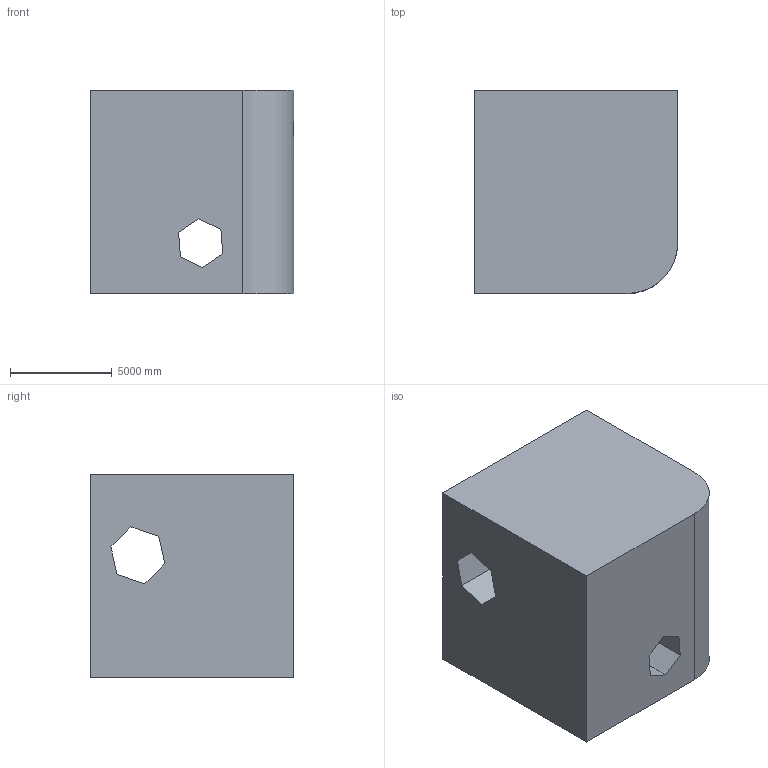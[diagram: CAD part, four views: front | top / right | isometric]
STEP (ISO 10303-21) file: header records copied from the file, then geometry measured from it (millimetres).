
FILE_DESCRIPTION (( 'STEP AP203' ), '1' );
FILE_NAME ('415.STEP', '2022-07-29T11:11:23', ( 'user' ), ( '' ), 'SwSTEP 2.0', 'SolidWorks 2021', '' );
FILE_SCHEMA (( 'CONFIG_CONTROL_DESIGN' ));
Length unit declared in the file: centimetre
Products named in the file (1): 415
Bounding box: 10000 x 10000 x 10000 mm (x, y, z)
Volume: 843441707352.4 mm3; surface area: 837386142.7 mm2
Topology: 1 solids, 1 shells, 30 faces, 78 edges, 52 vertices
Faces by surface type: plane 25, cylinder 5
Entity records: 1047 total; most frequent: CARTESIAN_POINT 212, ORIENTED_EDGE 156, DIRECTION 150, EDGE_CURVE 78, LINE 66, VECTOR 66, VERTEX_POINT 52, AXIS2_PLACEMENT_3D 42
